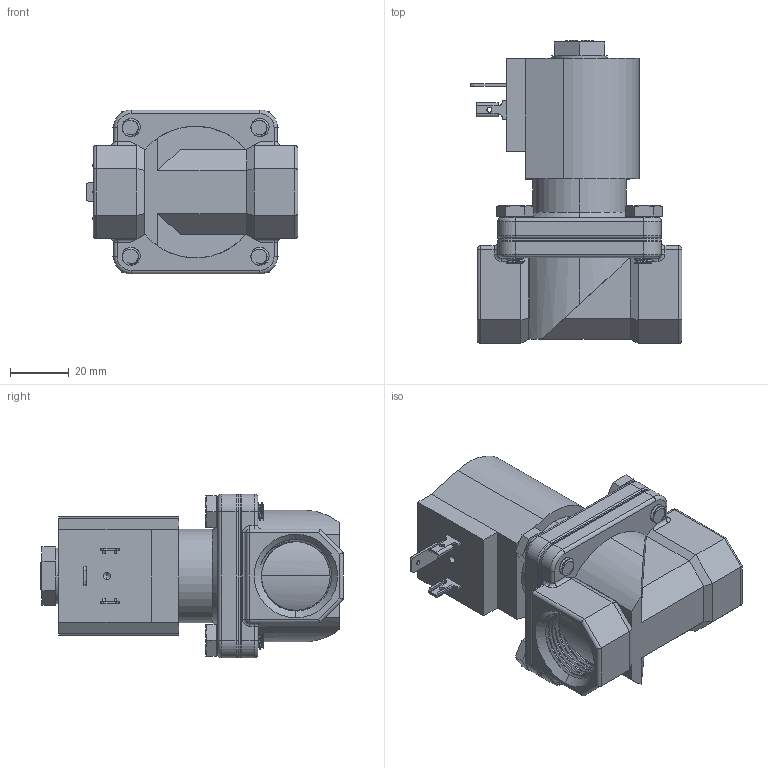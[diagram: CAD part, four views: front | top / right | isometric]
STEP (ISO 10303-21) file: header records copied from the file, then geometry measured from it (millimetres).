
FILE_DESCRIPTION (( 'STEP AP214' ), '1' );
FILE_NAME ('S201Y_E.STEP', '2022-03-28T18:04:30', ( '' ), ( '' ), 'SwSTEP 2.0', 'SolidWorks 2020', '' );
FILE_SCHEMA (( 'AUTOMOTIVE_DESIGN' ));
Length unit declared in the file: inch
Products named in the file (1): S201Y_E
Bounding box: 72.42 x 103.5 x 56.01 mm (x, y, z)
Volume: 172751.2 mm3; surface area: 28662.9 mm2
Topology: 1 solids, 1 shells, 411 faces, 1046 edges, 653 vertices
Faces by surface type: plane 167, cylinder 155, bspline 41, torus 24, cone 20, sphere 4
Entity records: 33205 total; most frequent: CARTESIAN_POINT 18637, ORIENTED_EDGE 2080, DIRECTION 1742, EDGE_CURVE 1040, VERTEX_POINT 653, AXIS2_PLACEMENT_3D 622, VECTOR 498, LINE 498
